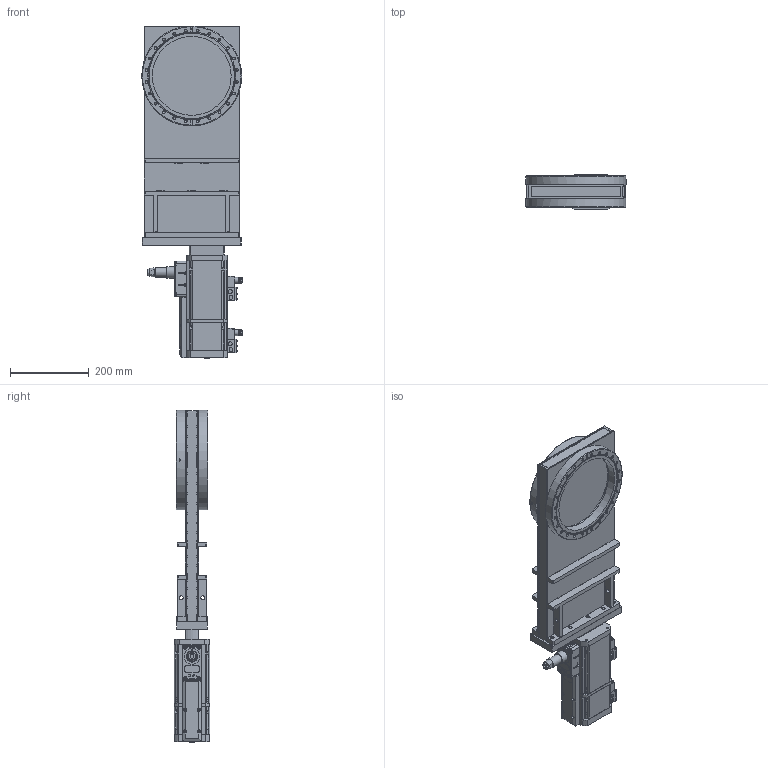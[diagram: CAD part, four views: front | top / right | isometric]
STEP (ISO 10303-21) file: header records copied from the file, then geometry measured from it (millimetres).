
FILE_DESCRIPTION(/* description */ (''),/* implementation_level */ '2;1');
FILE_NAME(/* name */ '1061687299_203.stp',/* time_stamp */ '2017-07-11T15:29:50+02:00',/* author */ (''),/* organization */ (''),/* preprocessor_version */ 'ST-DEVELOPER v15',/* originating_system */ 'SIEMENS PLM Software NX 9.0',/* authorisation */ '');
FILE_SCHEMA (('AP203_CONFIGURATION_CONTROLLED_3D_DESIGN_OF_MECHANICAL_PARTS_AND_ASSEMBLIES_MIM_LF { 1 0 10303 403 2 1 2}'));
Length unit declared in the file: millimetre
Products named in the file (61): 467882; 437235; n-6197-034.1; n-7100-007.2; 395614; 94220-01.1; 94224-01.2; 834044_36489ID; 834044_36514ID; 834044_36513ID; 834044_36512ID; 834046_36511ID; 834046_36510ID; 834046_36509ID; 834046_36508ID; 834014_36506ID; 834014_36505ID; 834006_36503ID; 834001_36501ID; 834001_36500ID; 833986_36498ID; 833986_36491ID; n-6013-447.1; n-6005-437.1; N-6005-477.1; 72979-01.1; 72846-01.1; 73706-01.1; 79606-01.2; 73692-01.1; 73700-01.1; 70738-01.1; 73691-01.1; 73705-01.1; 94312-01.1; 70732.1; N-7557-016_1.1; N-7557-018.1; N-7557-016_2.1; N-6024-524.1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
Assembly tree (94 placements, depth 4):
  898717
    826670
      834047
        833986_36491ID
        833986_36498ID
        834001_36500ID
        834001_36501ID
        834006_36503ID
        834014_36505ID
        834014_36506ID
        834046_36508ID
        834046_36509ID
        834046_36510ID
        834046_36511ID
        834044_36512ID
        834044_36513ID
        834044_36514ID
        834044_36489ID
      23657-01.1_36496ID
      23657-01.1_36493ID
      n-6099-511.1  x2
    94237-r1.2
      67114-01.1  x4
      395615
        94224-01.2
        94220-01.1
        395614
        n-7100-007.2  x2
        n-6197-034.1
    778871  x10
    69130-01.2
    n-8504-002
    70973-01.1
    n-6024-548.1  x4
    74628-01.3
    570870
    65313-01.1
    94800-r1.7_NX-ARRAGMNTKONFIG1  x2
      N-5018-005.1
      N-6024-524.1
      N-7557-016_2.1
      N-7557-018.1
      N-7557-016_1.1
      N-7557-016_3.1_MODELNX-ARRAGMNTArrangement 1
        437235
        467882
    94308-r1.3
      70732.1  x4
      94312-01.1
      73705-01.1
      73691-01.1
      70738-01.1
      73700-01.1
      73692-01.1
      79606-01.2
      73706-01.1
      72846-01.1
      72979-01.1
      N-6005-477.1  x4
      n-6005-437.1  x4
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Bounding box: 254.5 x 90 x 842 mm (x, y, z)
Volume: 4808584.4 mm3; surface area: 1307355.1 mm2
Topology: 122 solids, 134 shells, 3833 faces, 9605 edges, 6295 vertices
Faces by surface type: plane 2425, cylinder 817, cone 209, extrusion 188, torus 146, sphere 36, bspline 12
Full cylindrical faces by diameter (mm): 0.7 x1, 0.725 x1, 1.2 x1, 1.5 x6, 1.66 x7, 2 x3, 2.125 x1, 2.5 x11, 2.65 x1, 3 x23, 3.2 x4, 3.26 x4, 3.3 x14, 3.4 x8, 3.5 x6, 4 x22, 4.05 x4, 4.2 x3, 4.22 x2, 4.3 x6, 4.35 x2, 4.4 x8, 4.45 x4, 4.5 x2, 4.625 x2, 4.96 x4, 5 x22, 5.4 x2, 5.5 x2, 5.8 x1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
Entity records: 98784 total; most frequent: CARTESIAN_POINT 24335, ORIENTED_EDGE 12836, DIRECTION 12260, EDGE_CURVE 6418, VERTEX_POINT 4549, AXIS2_PLACEMENT_3D 4241, VECTOR 3778, EDGE_LOOP 3753
